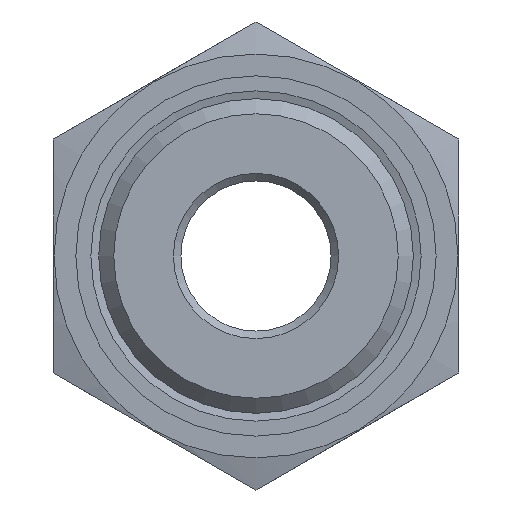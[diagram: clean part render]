
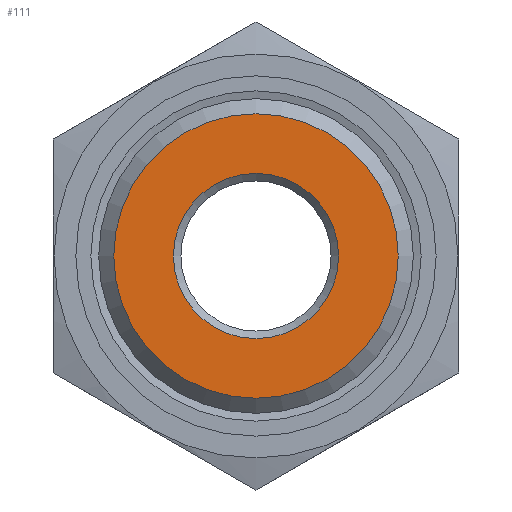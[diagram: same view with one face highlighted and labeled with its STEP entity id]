
A CAD part, left-side view. The second image highlights one B-rep face of the part: STEP entity #111.
In plain terms, the highlighted planar face has unit normal (-1, 0, 0).
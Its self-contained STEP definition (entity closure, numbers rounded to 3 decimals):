
#111 = ADVANCED_FACE( '', ( #229, #230 ), #231, .T. );
#229 = FACE_BOUND( '', #385, .T. );
#230 = FACE_OUTER_BOUND( '', #386, .T. );
#231 = PLANE( '', #387 );
#385 = EDGE_LOOP( '', ( #537 ) );
#386 = EDGE_LOOP( '', ( #538 ) );
#387 = AXIS2_PLACEMENT_3D( '', #539, #540, #541 );
#537 = ORIENTED_EDGE( '', *, *, #770, .T. );
#538 = ORIENTED_EDGE( '', *, *, #771, .T. );
#539 = CARTESIAN_POINT( '', ( -41., -13.5, -7.794 ) );
#540 = DIRECTION( '', ( -1., 0., 0. ) );
#541 = DIRECTION( '', ( 0., -1., 0. ) );
#770 = EDGE_CURVE( '', #863, #863, #864, .F. );
#771 = EDGE_CURVE( '', #865, #865, #866, .T. );
#863 = VERTEX_POINT( '', #990 );
#864 = CIRCLE( '', #991, 5.5 );
#865 = VERTEX_POINT( '', #992 );
#866 = CIRCLE( '', #993, 9.478 );
#990 = CARTESIAN_POINT( '', ( -41., -5.5, 0. ) );
#991 = AXIS2_PLACEMENT_3D( '', #1226, #1227, #1228 );
#992 = CARTESIAN_POINT( '', ( -41., -9.478, 0. ) );
#993 = AXIS2_PLACEMENT_3D( '', #1229, #1230, #1231 );
#1226 = CARTESIAN_POINT( '', ( -41., 0., 0. ) );
#1227 = DIRECTION( '', ( -1., 0., 0. ) );
#1228 = DIRECTION( '', ( 0., -1., 0. ) );
#1229 = CARTESIAN_POINT( '', ( -41., 0., 0. ) );
#1230 = DIRECTION( '', ( -1., 0., 0. ) );
#1231 = DIRECTION( '', ( 0., -1., 0. ) );
